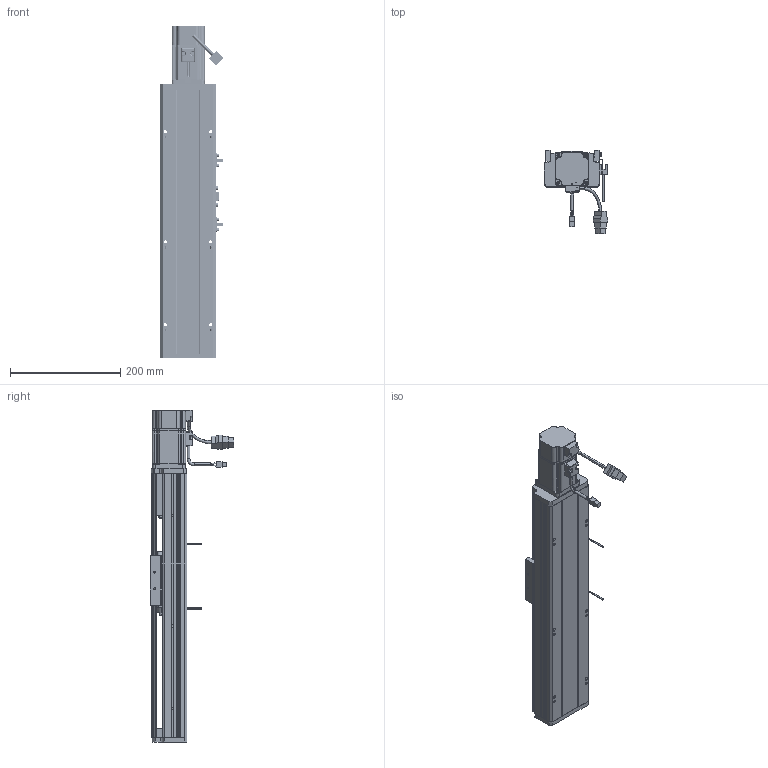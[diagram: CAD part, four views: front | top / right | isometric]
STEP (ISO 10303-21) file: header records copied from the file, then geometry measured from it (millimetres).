
FILE_DESCRIPTION (( 'STEP AP214' ), '1' );
FILE_NAME ('CTH10-250.STEP', '2019-11-18T08:29:58', ( '微软用户' ), ( '微软中国' ), 'SwSTEP 2.0', 'SolidWorks 2017', '' );
FILE_SCHEMA (( 'AUTOMOTIVE_DESIGN' ));
Length unit declared in the file: millimetre
Products named in the file (34): CTH10-250; CTH10-底座_默认<按加工>; CTH10-移动座_默认<按加工>; CTH10-蹟簽蟀諉啣; CTH10-盓傅釱; CTH10-傷啣; CTH10-侜督萇儂啣; SFH1605-288; SFH1605; CTH10-盖板_默认<按加工>; 怢湛200W侜督萇儂ECMA-CX0602ES; CTH10-粣創釱; BEARING_BaseModel20190604090351; 7001-DF; 粣創揤啣; COL12B-粣遠; 坶踡蹟譫; M4-L8囀鞠褒蹟佪; M3-L10囀鞠褒蹟佪; CTH10粣創釱蚾饜极; M5-L20囀鞠褒蹟佪; 遣喳蝶15x12x8; 6000Z粣創; M4-L6半圆头内六角螺丝; EE-SX672; M3-L8囀鞠褒蹟佪; 100耀郪-覜茼んえ; MGN12C; MGN12C-R1; MGN12C-2R420-Z0CHC; 噩砃M3-L10囀鞠褒蹟佪; 噩砃MGN12C; 噩砃MGN12C-R1; 噩砃MGN12C-2R420-Z0CHC
Assembly tree (100 placements, depth 4):
  CTH10-250
    CTH10-底座_默认<按加工>
    CTH10-移动座_默认<按加工>
    CTH10-蹟簽蟀諉啣
    CTH10-盓傅釱
    CTH10-傷啣
    CTH10-侜督萇儂啣
    SFH1605-288
    SFH1605
    CTH10-盖板_默认<按加工>
    怢湛200W侜督萇儂ECMA-CX0602ES
    CTH10粣創釱蚾饜极
      CTH10-粣創釱
      7001-DF
        BEARING_BaseModel20190604090351  x2
      粣創揤啣
      COL12B-粣遠  x2
      坶踡蹟譫
      M4-L8囀鞠褒蹟佪  x4
      M3-L10囀鞠褒蹟佪  x6
    M3-L10囀鞠褒蹟佪  x19
    M5-L20囀鞠褒蹟佪  x4
    遣喳蝶15x12x8  x3
    6000Z粣創
    M4-L6半圆头内六角螺丝  x4
    M4-L8囀鞠褒蹟佪  x8
    EE-SX672  x2
    M3-L8囀鞠褒蹟佪  x4
    100耀郪-覜茼んえ
    MGN12C-2R420-Z0CHC
      MGN12C
      MGN12C-R1  x2
      M3-L10囀鞠褒蹟佪  x8
    噩砃M3-L10囀鞠褒蹟佪
    噩砃MGN12C-2R420-Z0CHC
      噩砃MGN12C
      噩砃MGN12C-R1  x2
      噩砃M3-L10囀鞠褒蹟佪  x8
Bounding box: 114.24 x 151.37 x 602 mm (x, y, z)
Volume: 1754518.3 mm3; surface area: 615521.7 mm2
Topology: 96 solids, 105 shells, 4389 faces, 10962 edges, 6818 vertices
Faces by surface type: plane 2278, cylinder 1224, cone 601, bspline 241, torus 33, sphere 12
Entity records: 88062 total; most frequent: CARTESIAN_POINT 27018, ORIENTED_EDGE 12428, DIRECTION 11785, EDGE_CURVE 6214, AXIS2_PLACEMENT_3D 4122, VERTEX_POINT 4032, VECTOR 3541, LINE 3541
